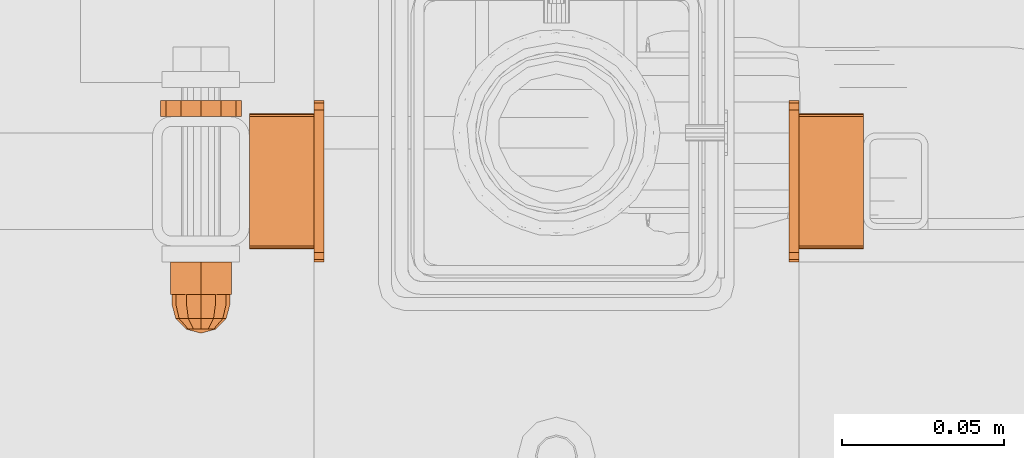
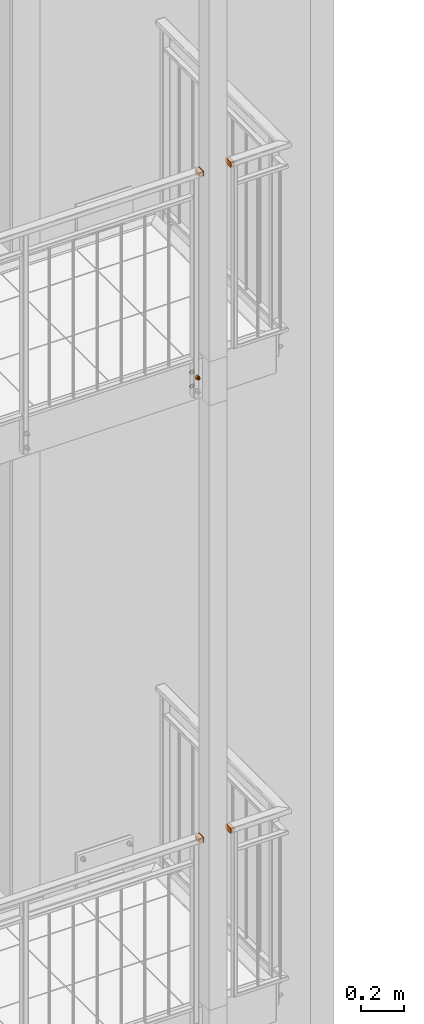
# One storey, part 126 of 162: 7 proxies.
"""IFC2X3 building model written with IfcOpenShell, lengths in millimetres."""

from ifc_helpers import new_model, entity, si_unit, converted_unit, origin_with_axes, place, context, project, spatial, faceted_brep, material, element, save


model = new_model("IFC2X3")

# Units and contexts
model_context = context("Model", 3, precision=1e-09, world=origin_with_axes())
ifc_project = project(units=[si_unit("LENGTHUNIT", "METRE", prefix="MILLI"), si_unit("AREAUNIT", "SQUARE_METRE"), si_unit("VOLUMEUNIT", "CUBIC_METRE"), converted_unit("PLANEANGLEUNIT", "DEGREE", entity("IfcPlaneAngleMeasure", 0.01745329), si_unit("PLANEANGLEUNIT", "RADIAN"), dimensions=[0, 0, 0, 0, 0, 0, 0])], contexts=[model_context])

# Site, building, storey
site_placement = place(None, origin_with_axes())
site = spatial("IfcSite", under=ifc_project, at=site_placement, Name="Hermannstra?e 1a, 60318 Frankfurt", CompositionType="ELEMENT")
building_placement = place(site_placement, origin_with_axes())
building = spatial("IfcBuilding", under=site, at=building_placement, Name="Struktur 1", CompositionType="ELEMENT")
storey_placement = place(building_placement, origin_with_axes())
storey = spatial("IfcBuildingStorey", under=building, at=storey_placement, Name="Default Storey", CompositionType="ELEMENT", Elevation=0.0)

# Proxies
ifc_material = material(Name="Kein")
proxy_1_placement = place(None, origin_with_axes())
element("IfcBuildingElementProxy", 1, at=proxy_1_placement, inside=storey, material=ifc_material, ObjectType="-", context=model_context, shape_type="Brep", body=[
    faceted_brep([(5378.30936482, 1494.609373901, 8774.0), (5378.30936482, 1494.609373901, 8756.0), (5398.30936482, 1494.609373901, 8756.0), (5398.30936482, 1494.609373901, 8774.0), (5398.30936482, 1494.877323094, 8775.0), (5378.30936482, 1494.877323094, 8775.0), (5378.30936482, 1495.609373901, 8775.732050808), (5398.30936482, 1495.609373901, 8775.732050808), (5398.30936482, 1496.609373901, 8776.0), (5378.30936482, 1496.609373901, 8776.0), (5378.30936482, 1494.877323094, 8755.0), (5398.30936482, 1494.877323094, 8755.0), (5378.30936482, 1495.609373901, 8754.267949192), (5398.30936482, 1495.609373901, 8754.267949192), (5378.30936482, 1534.609373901, 8776.0), (5378.30936482, 1535.609373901, 8775.732050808), (5378.30936482, 1536.341424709, 8775.0), (5378.30936482, 1536.609373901, 8774.0), (5378.30936482, 1536.609373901, 8756.0), (5378.30936482, 1536.341424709, 8755.0), (5378.30936482, 1535.609373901, 8754.267949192), (5378.30936482, 1534.609373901, 8754.0), (5378.30936482, 1496.609373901, 8754.0), (5378.30936482, 1498.609373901, 8772.0), (5378.30936482, 1498.609373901, 8758.0), (5378.30936482, 1532.609373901, 8758.0), (5378.30936482, 1532.609373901, 8772.0), (5398.30936482, 1496.609373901, 8754.0), (5398.30936482, 1534.609373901, 8754.0), (5398.30936482, 1535.609373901, 8754.267949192), (5398.30936482, 1536.341424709, 8755.0), (5398.30936482, 1536.609373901, 8756.0), (5398.30936482, 1536.609373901, 8774.0), (5398.30936482, 1536.341424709, 8775.0), (5398.30936482, 1535.609373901, 8775.732050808), (5398.30936482, 1534.609373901, 8776.0), (5398.30936482, 1498.609373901, 8772.0), (5398.30936482, 1498.609373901, 8758.0), (5398.30936482, 1532.609373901, 8758.0), (5398.30936482, 1532.609373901, 8772.0)], [[[0, 1, 2, 3]], [[0, 3, 4, 5]], [[6, 7, 8, 9]], [[5, 4, 7, 6]], [[2, 1, 10, 11]], [[11, 10, 12, 13]], [[5, 6, 9, 14, 15, 16, 17, 18, 19, 20, 21, 22, 12, 10, 1, 0], [23, 24, 25, 26]], [[3, 2, 11, 13, 27, 28, 29, 30, 31, 32, 33, 34, 35, 8, 7, 4]], [[34, 15, 14, 35]], [[14, 9, 8, 35]], [[36, 37, 24, 23]], [[15, 34, 33, 16]], [[13, 12, 22, 27]], [[25, 24, 37, 38]], [[22, 21, 28, 27]], [[28, 21, 20, 29]], [[39, 36, 23, 26]], [[16, 33, 32, 17]], [[29, 20, 19, 30]], [[26, 25, 38, 39]], [[18, 17, 32, 31]], [[30, 19, 18, 31]]]),
    faceted_brep([(5398.30936482, 1496.609373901, 8750.0), (5401.30936482, 1496.609373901, 8750.0), (5401.30936482, 1493.609373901, 8750.803847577), (5398.30936482, 1493.609373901, 8750.803847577), (5401.30936482, 1491.413221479, 8753.0), (5398.30936482, 1491.413221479, 8753.0), (5401.30936482, 1534.609373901, 8750.0), (5398.30936482, 1534.609373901, 8750.0), (5398.30936482, 1537.609373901, 8750.803847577), (5401.30936482, 1537.609373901, 8750.803847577), (5398.30936482, 1539.805526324, 8753.0), (5401.30936482, 1539.805526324, 8753.0), (5398.30936482, 1490.609373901, 8756.0), (5398.30936482, 1490.609373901, 8774.0), (5398.30936482, 1491.413221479, 8777.0), (5398.30936482, 1493.609373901, 8779.196152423), (5398.30936482, 1496.609373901, 8780.0), (5398.30936482, 1534.609373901, 8780.0), (5398.30936482, 1537.609373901, 8779.196152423), (5398.30936482, 1539.805526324, 8777.0), (5398.30936482, 1540.609373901, 8774.0), (5398.30936482, 1540.609373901, 8756.0), (5401.30936482, 1540.609373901, 8756.0), (5401.30936482, 1540.609373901, 8774.0), (5401.30936482, 1539.805526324, 8777.0), (5401.30936482, 1537.609373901, 8779.196152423), (5401.30936482, 1534.609373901, 8780.0), (5401.30936482, 1496.609373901, 8780.0), (5401.30936482, 1493.609373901, 8779.196152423), (5401.30936482, 1491.413221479, 8777.0), (5401.30936482, 1490.609373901, 8774.0), (5401.30936482, 1490.609373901, 8756.0)], [[[0, 1, 2, 3]], [[3, 2, 4, 5]], [[6, 7, 8, 9]], [[9, 8, 10, 11]], [[5, 12, 13, 14, 15, 16, 17, 18, 19, 20, 21, 10, 8, 7, 0, 3]], [[6, 1, 0, 7]], [[11, 22, 23, 24, 25, 26, 27, 28, 29, 30, 31, 4, 2, 1, 6, 9]], [[5, 4, 31, 12]], [[13, 12, 31, 30]], [[11, 10, 21, 22]], [[28, 15, 14, 29]], [[29, 14, 13, 30]], [[15, 28, 27, 16]], [[23, 22, 21, 20]], [[17, 16, 27, 26]], [[23, 20, 19, 24]], [[25, 18, 17, 26]], [[24, 19, 18, 25]]]),
])
proxy_2_placement = place(None, origin_with_axes())
element("IfcBuildingElementProxy", 2, at=proxy_2_placement, inside=storey, material=ifc_material, ObjectType="-", context=model_context, shape_type="Brep", body=[
    faceted_brep([(5568.30936482, 1494.609373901, 8756.0), (5568.30936482, 1494.609373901, 8774.0), (5548.30936482, 1494.609373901, 8774.0), (5548.30936482, 1494.609373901, 8756.0), (5568.30936482, 1494.877323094, 8775.0), (5548.30936482, 1494.877323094, 8775.0), (5548.30936482, 1495.609373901, 8775.732050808), (5568.30936482, 1495.609373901, 8775.732050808), (5568.30936482, 1496.609373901, 8776.0), (5548.30936482, 1496.609373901, 8776.0), (5548.30936482, 1494.877323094, 8755.0), (5568.30936482, 1494.877323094, 8755.0), (5548.30936482, 1495.609373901, 8754.267949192), (5568.30936482, 1495.609373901, 8754.267949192), (5568.30936482, 1496.609373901, 8754.0), (5568.30936482, 1534.609373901, 8754.0), (5568.30936482, 1535.609373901, 8754.267949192), (5568.30936482, 1536.341424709, 8755.0), (5568.30936482, 1536.609373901, 8756.0), (5568.30936482, 1536.609373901, 8774.0), (5568.30936482, 1536.341424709, 8775.0), (5568.30936482, 1535.609373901, 8775.732050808), (5568.30936482, 1534.609373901, 8776.0), (5568.30936482, 1498.609373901, 8772.0), (5568.30936482, 1532.609373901, 8772.0), (5568.30936482, 1532.609373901, 8758.0), (5568.30936482, 1498.609373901, 8758.0), (5548.30936482, 1534.609373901, 8776.0), (5548.30936482, 1535.609373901, 8775.732050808), (5548.30936482, 1536.341424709, 8775.0), (5548.30936482, 1536.609373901, 8774.0), (5548.30936482, 1536.609373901, 8756.0), (5548.30936482, 1536.341424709, 8755.0), (5548.30936482, 1535.609373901, 8754.267949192), (5548.30936482, 1534.609373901, 8754.0), (5548.30936482, 1496.609373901, 8754.0), (5548.30936482, 1498.609373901, 8772.0), (5548.30936482, 1498.609373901, 8758.0), (5548.30936482, 1532.609373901, 8758.0), (5548.30936482, 1532.609373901, 8772.0)], [[[0, 1, 2, 3]], [[2, 1, 4, 5]], [[6, 7, 8, 9]], [[5, 4, 7, 6]], [[0, 3, 10, 11]], [[11, 10, 12, 13]], [[7, 4, 1, 0, 11, 13, 14, 15, 16, 17, 18, 19, 20, 21, 22, 8], [23, 24, 25, 26]], [[3, 2, 5, 6, 9, 27, 28, 29, 30, 31, 32, 33, 34, 35, 12, 10], [36, 37, 38, 39]], [[21, 28, 27, 22]], [[8, 22, 27, 9]], [[37, 36, 23, 26]], [[28, 21, 20, 29]], [[13, 12, 35, 14]], [[26, 25, 38, 37]], [[15, 14, 35, 34]], [[15, 34, 33, 16]], [[36, 39, 24, 23]], [[29, 20, 19, 30]], [[16, 33, 32, 17]], [[25, 24, 39, 38]], [[19, 18, 31, 30]], [[17, 32, 31, 18]]]),
    faceted_brep([(5545.30936482, 1496.609373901, 8750.0), (5548.30936482, 1496.609373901, 8750.0), (5548.30936482, 1493.609373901, 8750.803847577), (5545.30936482, 1493.609373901, 8750.803847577), (5548.30936482, 1491.413221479, 8753.0), (5545.30936482, 1491.413221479, 8753.0), (5548.30936482, 1534.609373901, 8750.0), (5545.30936482, 1534.609373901, 8750.0), (5545.30936482, 1537.609373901, 8750.803847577), (5548.30936482, 1537.609373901, 8750.803847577), (5545.30936482, 1539.805526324, 8753.0), (5548.30936482, 1539.805526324, 8753.0), (5548.30936482, 1490.609373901, 8756.0), (5548.30936482, 1540.609373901, 8756.0), (5548.30936482, 1540.609373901, 8774.0), (5548.30936482, 1539.805526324, 8777.0), (5548.30936482, 1537.609373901, 8779.196152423), (5548.30936482, 1534.609373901, 8780.0), (5548.30936482, 1496.609373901, 8780.0), (5548.30936482, 1493.609373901, 8779.196152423), (5548.30936482, 1491.413221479, 8777.0), (5548.30936482, 1490.609373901, 8774.0), (5545.30936482, 1540.609373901, 8756.0), (5545.30936482, 1490.609373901, 8756.0), (5545.30936482, 1490.609373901, 8774.0), (5545.30936482, 1491.413221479, 8777.0), (5545.30936482, 1493.609373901, 8779.196152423), (5545.30936482, 1496.609373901, 8780.0), (5545.30936482, 1534.609373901, 8780.0), (5545.30936482, 1537.609373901, 8779.196152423), (5545.30936482, 1539.805526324, 8777.0), (5545.30936482, 1540.609373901, 8774.0)], [[[0, 1, 2, 3]], [[3, 2, 4, 5]], [[6, 7, 8, 9]], [[9, 8, 10, 11]], [[12, 4, 2, 1, 6, 9, 11, 13, 14, 15, 16, 17, 18, 19, 20, 21]], [[0, 7, 6, 1]], [[22, 10, 8, 7, 0, 3, 5, 23, 24, 25, 26, 27, 28, 29, 30, 31]], [[5, 4, 12, 23]], [[12, 21, 24, 23]], [[11, 10, 22, 13]], [[19, 26, 25, 20]], [[20, 25, 24, 21]], [[26, 19, 18, 27]], [[22, 31, 14, 13]], [[18, 17, 28, 27]], [[14, 31, 30, 15]], [[16, 29, 28, 17]], [[15, 30, 29, 16]]]),
])
proxy_3_placement = place(None, origin_with_axes())
element("IfcBuildingElementProxy", 3, at=proxy_3_placement, inside=storey, material=ifc_material, ObjectType="-", context=model_context, shape_type="Brep", body=[
    faceted_brep([(5378.30936482, 1494.609373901, 12573.999), (5378.30936482, 1494.609373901, 12555.999), (5398.30936482, 1494.609373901, 12555.999), (5398.30936482, 1494.609373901, 12573.999), (5398.30936482, 1494.877323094, 12574.999), (5378.30936482, 1494.877323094, 12574.999), (5378.30936482, 1495.609373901, 12575.731050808), (5398.30936482, 1495.609373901, 12575.731050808), (5398.30936482, 1496.609373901, 12575.999), (5378.30936482, 1496.609373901, 12575.999), (5378.30936482, 1494.877323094, 12554.999), (5398.30936482, 1494.877323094, 12554.999), (5378.30936482, 1495.609373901, 12554.266949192), (5398.30936482, 1495.609373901, 12554.266949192), (5378.30936482, 1534.609373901, 12575.999), (5378.30936482, 1535.609373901, 12575.731050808), (5378.30936482, 1536.341424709, 12574.999), (5378.30936482, 1536.609373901, 12573.999), (5378.30936482, 1536.609373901, 12555.999), (5378.30936482, 1536.341424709, 12554.999), (5378.30936482, 1535.609373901, 12554.266949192), (5378.30936482, 1534.609373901, 12553.999), (5378.30936482, 1496.609373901, 12553.999), (5378.30936482, 1498.609373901, 12571.999), (5378.30936482, 1498.609373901, 12557.999), (5378.30936482, 1532.609373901, 12557.999), (5378.30936482, 1532.609373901, 12571.999), (5398.30936482, 1496.609373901, 12553.999), (5398.30936482, 1534.609373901, 12553.999), (5398.30936482, 1535.609373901, 12554.266949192), (5398.30936482, 1536.341424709, 12554.999), (5398.30936482, 1536.609373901, 12555.999), (5398.30936482, 1536.609373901, 12573.999), (5398.30936482, 1536.341424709, 12574.999), (5398.30936482, 1535.609373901, 12575.731050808), (5398.30936482, 1534.609373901, 12575.999), (5398.30936482, 1498.609373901, 12571.999), (5398.30936482, 1498.609373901, 12557.999), (5398.30936482, 1532.609373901, 12557.999), (5398.30936482, 1532.609373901, 12571.999)], [[[0, 1, 2, 3]], [[0, 3, 4, 5]], [[6, 7, 8, 9]], [[5, 4, 7, 6]], [[2, 1, 10, 11]], [[11, 10, 12, 13]], [[5, 6, 9, 14, 15, 16, 17, 18, 19, 20, 21, 22, 12, 10, 1, 0], [23, 24, 25, 26]], [[3, 2, 11, 13, 27, 28, 29, 30, 31, 32, 33, 34, 35, 8, 7, 4]], [[34, 15, 14, 35]], [[14, 9, 8, 35]], [[36, 37, 24, 23]], [[15, 34, 33, 16]], [[13, 12, 22, 27]], [[25, 24, 37, 38]], [[22, 21, 28, 27]], [[28, 21, 20, 29]], [[39, 36, 23, 26]], [[16, 33, 32, 17]], [[29, 20, 19, 30]], [[26, 25, 38, 39]], [[18, 17, 32, 31]], [[30, 19, 18, 31]]]),
    faceted_brep([(5398.30936482, 1496.609373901, 12549.999), (5401.30936482, 1496.609373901, 12549.999), (5401.30936482, 1493.609373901, 12550.802847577), (5398.30936482, 1493.609373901, 12550.802847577), (5401.30936482, 1491.413221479, 12552.999), (5398.30936482, 1491.413221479, 12552.999), (5401.30936482, 1534.609373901, 12549.999), (5398.30936482, 1534.609373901, 12549.999), (5398.30936482, 1537.609373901, 12550.802847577), (5401.30936482, 1537.609373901, 12550.802847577), (5398.30936482, 1539.805526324, 12552.999), (5401.30936482, 1539.805526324, 12552.999), (5398.30936482, 1490.609373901, 12555.999), (5398.30936482, 1490.609373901, 12573.999), (5398.30936482, 1491.413221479, 12576.999), (5398.30936482, 1493.609373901, 12579.195152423), (5398.30936482, 1496.609373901, 12579.999), (5398.30936482, 1534.609373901, 12579.999), (5398.30936482, 1537.609373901, 12579.195152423), (5398.30936482, 1539.805526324, 12576.999), (5398.30936482, 1540.609373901, 12573.999), (5398.30936482, 1540.609373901, 12555.999), (5401.30936482, 1540.609373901, 12555.999), (5401.30936482, 1540.609373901, 12573.999), (5401.30936482, 1539.805526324, 12576.999), (5401.30936482, 1537.609373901, 12579.195152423), (5401.30936482, 1534.609373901, 12579.999), (5401.30936482, 1496.609373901, 12579.999), (5401.30936482, 1493.609373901, 12579.195152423), (5401.30936482, 1491.413221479, 12576.999), (5401.30936482, 1490.609373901, 12573.999), (5401.30936482, 1490.609373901, 12555.999)], [[[0, 1, 2, 3]], [[3, 2, 4, 5]], [[6, 7, 8, 9]], [[9, 8, 10, 11]], [[5, 12, 13, 14, 15, 16, 17, 18, 19, 20, 21, 10, 8, 7, 0, 3]], [[6, 1, 0, 7]], [[11, 22, 23, 24, 25, 26, 27, 28, 29, 30, 31, 4, 2, 1, 6, 9]], [[5, 4, 31, 12]], [[13, 12, 31, 30]], [[11, 10, 21, 22]], [[28, 15, 14, 29]], [[29, 14, 13, 30]], [[15, 28, 27, 16]], [[23, 22, 21, 20]], [[17, 16, 27, 26]], [[23, 20, 19, 24]], [[25, 18, 17, 26]], [[24, 19, 18, 25]]]),
])
proxy_4_placement = place(None, origin_with_axes())
element("IfcBuildingElementProxy", 4, at=proxy_4_placement, inside=storey, material=ifc_material, ObjectType="-", context=model_context, shape_type="Brep", body=[
    faceted_brep([(5568.30936482, 1494.609373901, 12555.999), (5568.30936482, 1494.609373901, 12573.999), (5548.30936482, 1494.609373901, 12573.999), (5548.30936482, 1494.609373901, 12555.999), (5568.30936482, 1494.877323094, 12574.999), (5548.30936482, 1494.877323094, 12574.999), (5548.30936482, 1495.609373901, 12575.731050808), (5568.30936482, 1495.609373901, 12575.731050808), (5568.30936482, 1496.609373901, 12575.999), (5548.30936482, 1496.609373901, 12575.999), (5548.30936482, 1494.877323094, 12554.999), (5568.30936482, 1494.877323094, 12554.999), (5548.30936482, 1495.609373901, 12554.266949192), (5568.30936482, 1495.609373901, 12554.266949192), (5568.30936482, 1496.609373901, 12553.999), (5568.30936482, 1534.609373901, 12553.999), (5568.30936482, 1535.609373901, 12554.266949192), (5568.30936482, 1536.341424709, 12554.999), (5568.30936482, 1536.609373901, 12555.999), (5568.30936482, 1536.609373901, 12573.999), (5568.30936482, 1536.341424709, 12574.999), (5568.30936482, 1535.609373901, 12575.731050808), (5568.30936482, 1534.609373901, 12575.999), (5568.30936482, 1498.609373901, 12571.999), (5568.30936482, 1532.609373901, 12571.999), (5568.30936482, 1532.609373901, 12557.999), (5568.30936482, 1498.609373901, 12557.999), (5548.30936482, 1534.609373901, 12575.999), (5548.30936482, 1535.609373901, 12575.731050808), (5548.30936482, 1536.341424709, 12574.999), (5548.30936482, 1536.609373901, 12573.999), (5548.30936482, 1536.609373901, 12555.999), (5548.30936482, 1536.341424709, 12554.999), (5548.30936482, 1535.609373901, 12554.266949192), (5548.30936482, 1534.609373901, 12553.999), (5548.30936482, 1496.609373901, 12553.999), (5548.30936482, 1498.609373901, 12571.999), (5548.30936482, 1498.609373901, 12557.999), (5548.30936482, 1532.609373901, 12557.999), (5548.30936482, 1532.609373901, 12571.999)], [[[0, 1, 2, 3]], [[2, 1, 4, 5]], [[6, 7, 8, 9]], [[5, 4, 7, 6]], [[0, 3, 10, 11]], [[11, 10, 12, 13]], [[7, 4, 1, 0, 11, 13, 14, 15, 16, 17, 18, 19, 20, 21, 22, 8], [23, 24, 25, 26]], [[3, 2, 5, 6, 9, 27, 28, 29, 30, 31, 32, 33, 34, 35, 12, 10], [36, 37, 38, 39]], [[21, 28, 27, 22]], [[8, 22, 27, 9]], [[37, 36, 23, 26]], [[28, 21, 20, 29]], [[13, 12, 35, 14]], [[26, 25, 38, 37]], [[15, 14, 35, 34]], [[15, 34, 33, 16]], [[36, 39, 24, 23]], [[29, 20, 19, 30]], [[16, 33, 32, 17]], [[25, 24, 39, 38]], [[19, 18, 31, 30]], [[17, 32, 31, 18]]]),
    faceted_brep([(5545.30936482, 1496.609373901, 12549.999), (5548.30936482, 1496.609373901, 12549.999), (5548.30936482, 1493.609373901, 12550.802847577), (5545.30936482, 1493.609373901, 12550.802847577), (5548.30936482, 1491.413221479, 12552.999), (5545.30936482, 1491.413221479, 12552.999), (5548.30936482, 1534.609373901, 12549.999), (5545.30936482, 1534.609373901, 12549.999), (5545.30936482, 1537.609373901, 12550.802847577), (5548.30936482, 1537.609373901, 12550.802847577), (5545.30936482, 1539.805526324, 12552.999), (5548.30936482, 1539.805526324, 12552.999), (5548.30936482, 1490.609373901, 12555.999), (5548.30936482, 1540.609373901, 12555.999), (5548.30936482, 1540.609373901, 12573.999), (5548.30936482, 1539.805526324, 12576.999), (5548.30936482, 1537.609373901, 12579.195152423), (5548.30936482, 1534.609373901, 12579.999), (5548.30936482, 1496.609373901, 12579.999), (5548.30936482, 1493.609373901, 12579.195152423), (5548.30936482, 1491.413221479, 12576.999), (5548.30936482, 1490.609373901, 12573.999), (5545.30936482, 1540.609373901, 12555.999), (5545.30936482, 1490.609373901, 12555.999), (5545.30936482, 1490.609373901, 12573.999), (5545.30936482, 1491.413221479, 12576.999), (5545.30936482, 1493.609373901, 12579.195152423), (5545.30936482, 1496.609373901, 12579.999), (5545.30936482, 1534.609373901, 12579.999), (5545.30936482, 1537.609373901, 12579.195152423), (5545.30936482, 1539.805526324, 12576.999), (5545.30936482, 1540.609373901, 12573.999)], [[[0, 1, 2, 3]], [[3, 2, 4, 5]], [[6, 7, 8, 9]], [[9, 8, 10, 11]], [[12, 4, 2, 1, 6, 9, 11, 13, 14, 15, 16, 17, 18, 19, 20, 21]], [[0, 7, 6, 1]], [[22, 10, 8, 7, 0, 3, 5, 23, 24, 25, 26, 27, 28, 29, 30, 31]], [[5, 4, 12, 23]], [[12, 21, 24, 23]], [[11, 10, 22, 13]], [[19, 26, 25, 20]], [[20, 25, 24, 21]], [[26, 19, 18, 27]], [[22, 31, 14, 13]], [[18, 17, 28, 27]], [[14, 31, 30, 15]], [[16, 29, 28, 17]], [[15, 30, 29, 16]]]),
])
proxy_5_placement = place(None, origin_with_axes())
element("IfcBuildingElementProxy", 5, at=proxy_5_placement, inside=storey, material=ifc_material, ObjectType="-", context=model_context, shape_type="Brep", body=[
    faceted_brep([(5352.484047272, 1535.609373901, 11333.749), (5357.05936482, 1535.609373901, 11329.173682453), (5363.30936482, 1535.609373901, 11327.499), (5369.55936482, 1535.609373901, 11329.173682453), (5374.134682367, 1535.609373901, 11333.749), (5375.80936482, 1535.609373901, 11339.999), (5374.134682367, 1535.609373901, 11346.249), (5369.55936482, 1535.609373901, 11350.824317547), (5363.30936482, 1535.609373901, 11352.499), (5357.05936482, 1535.609373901, 11350.824317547), (5352.484047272, 1535.609373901, 11346.249), (5350.80936482, 1535.609373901, 11339.999), (5363.30936482, 1535.609373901, 11333.999), (5360.30936482, 1535.609373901, 11334.802847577), (5358.113212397, 1535.609373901, 11336.999), (5357.30936482, 1535.609373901, 11339.999), (5358.113212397, 1535.609373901, 11342.999), (5360.30936482, 1535.609373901, 11345.195152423), (5363.30936482, 1535.609373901, 11345.999), (5366.30936482, 1535.609373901, 11345.195152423), (5368.505517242, 1535.609373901, 11342.999), (5369.30936482, 1535.609373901, 11339.999), (5368.505517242, 1535.609373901, 11336.999), (5366.30936482, 1535.609373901, 11334.802847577), (5352.484047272, 1540.609373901, 11333.749), (5357.05936482, 1540.609373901, 11329.173682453), (5350.80936482, 1540.609373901, 11339.999), (5352.484047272, 1540.609373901, 11346.249), (5357.05936482, 1540.609373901, 11350.824317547), (5363.30936482, 1540.609373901, 11352.499), (5369.55936482, 1540.609373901, 11350.824317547), (5374.134682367, 1540.609373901, 11346.249), (5375.80936482, 1540.609373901, 11339.999), (5374.134682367, 1540.609373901, 11333.749), (5369.55936482, 1540.609373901, 11329.173682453), (5363.30936482, 1540.609373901, 11327.499), (5358.113212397, 1540.609373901, 11342.999), (5357.30936482, 1540.609373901, 11339.999), (5358.113212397, 1540.609373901, 11336.999), (5360.30936482, 1540.609373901, 11334.802847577), (5363.30936482, 1540.609373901, 11333.999), (5366.30936482, 1540.609373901, 11334.802847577), (5368.505517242, 1540.609373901, 11336.999), (5369.30936482, 1540.609373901, 11339.999), (5368.505517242, 1540.609373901, 11342.999), (5366.30936482, 1540.609373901, 11345.195152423), (5363.30936482, 1540.609373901, 11345.999), (5360.30936482, 1540.609373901, 11345.195152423)], [[[0, 1, 2, 3, 4, 5, 6, 7, 8, 9, 10, 11], [12, 13, 14, 15, 16, 17, 18, 19, 20, 21, 22, 23]], [[0, 24, 25, 1]], [[24, 26, 27, 28, 29, 30, 31, 32, 33, 34, 35, 25], [36, 37, 38, 39, 40, 41, 42, 43, 44, 45, 46, 47]], [[38, 14, 13, 39]], [[24, 0, 11, 26]], [[14, 38, 37, 15]], [[39, 13, 12, 40]], [[1, 25, 35, 2]], [[26, 11, 10, 27]], [[15, 37, 36, 16]], [[40, 12, 23, 41]], [[2, 35, 34, 3]], [[27, 10, 9, 28]], [[16, 36, 47, 17]], [[22, 42, 41, 23]], [[3, 34, 33, 4]], [[42, 22, 21, 43]], [[28, 9, 8, 29]], [[17, 47, 46, 18]], [[20, 44, 43, 21]], [[4, 33, 32, 5]], [[45, 19, 18, 46]], [[44, 20, 19, 45]], [[29, 8, 7, 30]], [[5, 32, 31, 6]], [[30, 7, 6, 31]]]),
])
proxy_6_placement = place(None, origin_with_axes())
element("IfcBuildingElementProxy", 6, at=proxy_6_placement, inside=storey, material=ifc_material, ObjectType="-", context=model_context, shape_type="Brep", body=[
    faceted_brep([(5352.484047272, 1535.609373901, 11413.749), (5357.05936482, 1535.609373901, 11409.173682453), (5363.30936482, 1535.609373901, 11407.499), (5369.55936482, 1535.609373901, 11409.173682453), (5374.134682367, 1535.609373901, 11413.749), (5375.80936482, 1535.609373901, 11419.999), (5374.134682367, 1535.609373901, 11426.249), (5369.55936482, 1535.609373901, 11430.824317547), (5363.30936482, 1535.609373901, 11432.499), (5357.05936482, 1535.609373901, 11430.824317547), (5352.484047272, 1535.609373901, 11426.249), (5350.80936482, 1535.609373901, 11419.999), (5363.30936482, 1535.609373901, 11413.999), (5360.30936482, 1535.609373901, 11414.802847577), (5358.113212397, 1535.609373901, 11416.999), (5357.30936482, 1535.609373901, 11419.999), (5358.113212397, 1535.609373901, 11422.999), (5360.30936482, 1535.609373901, 11425.195152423), (5363.30936482, 1535.609373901, 11425.999), (5366.30936482, 1535.609373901, 11425.195152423), (5368.505517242, 1535.609373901, 11422.999), (5369.30936482, 1535.609373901, 11419.999), (5368.505517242, 1535.609373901, 11416.999), (5366.30936482, 1535.609373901, 11414.802847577), (5352.484047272, 1540.609373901, 11413.749), (5357.05936482, 1540.609373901, 11409.173682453), (5350.80936482, 1540.609373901, 11419.999), (5352.484047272, 1540.609373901, 11426.249), (5357.05936482, 1540.609373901, 11430.824317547), (5363.30936482, 1540.609373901, 11432.499), (5369.55936482, 1540.609373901, 11430.824317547), (5374.134682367, 1540.609373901, 11426.249), (5375.80936482, 1540.609373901, 11419.999), (5374.134682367, 1540.609373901, 11413.749), (5369.55936482, 1540.609373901, 11409.173682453), (5363.30936482, 1540.609373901, 11407.499), (5358.113212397, 1540.609373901, 11422.999), (5357.30936482, 1540.609373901, 11419.999), (5358.113212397, 1540.609373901, 11416.999), (5360.30936482, 1540.609373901, 11414.802847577), (5363.30936482, 1540.609373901, 11413.999), (5366.30936482, 1540.609373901, 11414.802847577), (5368.505517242, 1540.609373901, 11416.999), (5369.30936482, 1540.609373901, 11419.999), (5368.505517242, 1540.609373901, 11422.999), (5366.30936482, 1540.609373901, 11425.195152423), (5363.30936482, 1540.609373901, 11425.999), (5360.30936482, 1540.609373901, 11425.195152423)], [[[0, 1, 2, 3, 4, 5, 6, 7, 8, 9, 10, 11], [12, 13, 14, 15, 16, 17, 18, 19, 20, 21, 22, 23]], [[0, 24, 25, 1]], [[24, 26, 27, 28, 29, 30, 31, 32, 33, 34, 35, 25], [36, 37, 38, 39, 40, 41, 42, 43, 44, 45, 46, 47]], [[38, 14, 13, 39]], [[24, 0, 11, 26]], [[14, 38, 37, 15]], [[39, 13, 12, 40]], [[1, 25, 35, 2]], [[26, 11, 10, 27]], [[15, 37, 36, 16]], [[40, 12, 23, 41]], [[2, 35, 34, 3]], [[27, 10, 9, 28]], [[16, 36, 47, 17]], [[22, 42, 41, 23]], [[3, 34, 33, 4]], [[42, 22, 21, 43]], [[28, 9, 8, 29]], [[17, 47, 46, 18]], [[20, 44, 43, 21]], [[4, 33, 32, 5]], [[45, 19, 18, 46]], [[44, 20, 19, 45]], [[29, 8, 7, 30]], [[5, 32, 31, 6]], [[30, 7, 6, 31]]]),
])
proxy_7_placement = place(None, origin_with_axes())
element("IfcBuildingElementProxy", 7, at=proxy_7_placement, inside=storey, material=ifc_material, ObjectType="-", context=model_context, shape_type="Brep", body=[
    faceted_brep([(5357.30936482, 1490.609373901, 11419.999), (5357.30936482, 1480.609373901, 11419.999), (5358.113212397, 1480.609373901, 11416.999), (5358.113212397, 1490.609373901, 11416.999), (5360.30936482, 1480.609373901, 11414.802847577), (5360.30936482, 1490.609373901, 11414.802847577), (5358.113212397, 1490.609373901, 11422.999), (5358.113212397, 1480.609373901, 11422.999), (5353.829495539, 1490.609373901, 11425.472205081), (5363.30936482, 1490.609373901, 11430.945410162), (5372.7892341, 1490.609373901, 11425.472205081), (5372.7892341, 1490.609373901, 11414.525794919), (5363.30936482, 1490.609373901, 11409.052589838), (5353.829495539, 1490.609373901, 11414.525794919), (5360.30936482, 1490.609373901, 11425.195152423), (5363.30936482, 1490.609373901, 11413.999), (5366.30936482, 1490.609373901, 11414.802847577), (5368.505517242, 1490.609373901, 11416.999), (5369.30936482, 1490.609373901, 11419.999), (5368.505517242, 1490.609373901, 11422.999), (5366.30936482, 1490.609373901, 11425.195152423), (5363.30936482, 1490.609373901, 11425.999), (5363.30936482, 1480.609373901, 11430.945410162), (5353.829495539, 1480.609373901, 11425.472205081), (5353.829495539, 1480.609373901, 11414.525794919), (5363.30936482, 1480.609373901, 11409.052589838), (5372.7892341, 1480.609373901, 11414.525794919), (5372.7892341, 1480.609373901, 11425.472205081), (5360.30936482, 1480.609373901, 11425.195152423), (5363.30936482, 1480.609373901, 11425.999), (5366.30936482, 1480.609373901, 11425.195152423), (5368.505517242, 1480.609373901, 11422.999), (5369.30936482, 1480.609373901, 11419.999), (5368.505517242, 1480.609373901, 11416.999), (5366.30936482, 1480.609373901, 11414.802847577), (5363.30936482, 1480.609373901, 11413.999)], [[[0, 1, 2, 3]], [[3, 2, 4, 5]], [[1, 0, 6, 7]], [[8, 9, 10, 11, 12, 13], [14, 6, 0, 3, 5, 15, 16, 17, 18, 19, 20, 21]], [[22, 23, 24, 25, 26, 27], [1, 7, 28, 29, 30, 31, 32, 33, 34, 35, 4, 2]], [[7, 6, 14, 28]], [[24, 23, 8, 13]], [[5, 4, 35, 15]], [[13, 12, 25, 24]], [[28, 14, 21, 29]], [[23, 22, 9, 8]], [[15, 35, 34, 16]], [[12, 11, 26, 25]], [[29, 21, 20, 30]], [[22, 27, 10, 9]], [[16, 34, 33, 17]], [[27, 26, 11, 10]], [[30, 20, 19, 31]], [[17, 33, 32, 18]], [[31, 19, 18, 32]]]),
    faceted_brep([(5363.30936482, 1480.609373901, 11428.999), (5363.30936482, 1477.609373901, 11428.999), (5367.80936482, 1477.609373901, 11427.793228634), (5367.80936482, 1480.609373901, 11427.793228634), (5358.80936482, 1480.609373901, 11427.793228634), (5358.80936482, 1477.609373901, 11427.793228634), (5355.515136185, 1477.609373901, 11415.499), (5358.80936482, 1477.609373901, 11412.204771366), (5363.30936482, 1477.609373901, 11410.999), (5367.80936482, 1477.609373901, 11412.204771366), (5371.103593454, 1477.609373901, 11415.499), (5372.30936482, 1477.609373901, 11419.999), (5371.103593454, 1477.609373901, 11424.499), (5355.515136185, 1477.609373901, 11424.499), (5354.30936482, 1477.609373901, 11419.999), (5371.103593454, 1480.609373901, 11415.499), (5367.80936482, 1480.609373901, 11412.204771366), (5363.30936482, 1480.609373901, 11410.999), (5358.80936482, 1480.609373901, 11412.204771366), (5355.515136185, 1480.609373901, 11415.499), (5354.30936482, 1480.609373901, 11419.999), (5355.515136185, 1480.609373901, 11424.499), (5371.103593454, 1480.609373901, 11424.499), (5372.30936482, 1480.609373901, 11419.999)], [[[0, 1, 2, 3]], [[1, 0, 4, 5]], [[6, 7, 8, 9, 10, 11, 12, 2, 1, 5, 13, 14]], [[15, 16, 17, 18, 19, 20, 21, 4, 0, 3, 22, 23]], [[3, 2, 12, 22]], [[5, 4, 21, 13]], [[22, 12, 11, 23]], [[13, 21, 20, 14]], [[7, 18, 17, 8]], [[19, 6, 14, 20]], [[18, 7, 6, 19]], [[23, 11, 10, 15]], [[8, 17, 16, 9]], [[15, 10, 9, 16]]]),
    faceted_brep([(5355.515136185, 1477.609373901, 11424.499), (5356.55936482, 1473.109373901, 11423.896114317), (5359.412250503, 1473.109373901, 11426.749), (5358.80936482, 1477.609373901, 11427.793228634), (5371.103593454, 1477.609373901, 11415.499), (5367.80936482, 1477.609373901, 11412.204771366), (5363.30936482, 1477.609373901, 11410.999), (5358.80936482, 1477.609373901, 11412.204771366), (5355.515136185, 1477.609373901, 11415.499), (5354.30936482, 1477.609373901, 11419.999), (5363.30936482, 1477.609373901, 11428.999), (5367.80936482, 1477.609373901, 11427.793228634), (5371.103593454, 1477.609373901, 11424.499), (5372.30936482, 1477.609373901, 11419.999), (5363.30936482, 1473.109373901, 11427.793228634), (5355.515136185, 1473.109373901, 11419.999), (5358.80936482, 1469.815145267, 11419.999), (5359.412250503, 1469.815145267, 11422.249), (5367.206479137, 1473.109373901, 11426.749), (5361.05936482, 1469.815145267, 11423.896114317), (5356.55936482, 1473.109373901, 11416.101885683), (5359.412250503, 1469.815145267, 11417.749), (5363.30936482, 1469.815145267, 11424.499), (5363.30936482, 1468.609373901, 11419.999), (5359.412250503, 1473.109373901, 11413.249), (5361.05936482, 1469.815145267, 11416.101885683), (5363.30936482, 1473.109373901, 11412.204771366), (5370.05936482, 1473.109373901, 11423.896114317), (5365.55936482, 1469.815145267, 11423.896114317), (5363.30936482, 1469.815145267, 11415.499), (5367.206479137, 1473.109373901, 11413.249), (5365.55936482, 1469.815145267, 11416.101885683), (5371.103593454, 1473.109373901, 11419.999), (5367.206479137, 1469.815145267, 11422.249), (5370.05936482, 1473.109373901, 11416.101885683), (5367.206479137, 1469.815145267, 11417.749), (5367.80936482, 1469.815145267, 11419.999)], [[[0, 1, 2, 3]], [[4, 5, 6, 7, 8, 9, 0, 3, 10, 11, 12, 13]], [[3, 2, 14, 10]], [[15, 16, 17, 1]], [[1, 0, 9, 15]], [[10, 14, 18, 11]], [[1, 17, 19, 2]], [[16, 15, 20, 21]], [[2, 19, 22, 14]], [[23, 17, 16]], [[24, 25, 21, 20]], [[23, 16, 21]], [[24, 7, 6, 26]], [[20, 8, 7, 24]], [[15, 9, 8, 20]], [[11, 18, 27, 12]], [[14, 22, 28, 18]], [[23, 19, 17]], [[26, 29, 25, 24]], [[23, 21, 25]], [[23, 22, 19]], [[26, 6, 5, 30]], [[29, 26, 30, 31]], [[23, 25, 29]], [[12, 27, 32, 13]], [[18, 28, 33, 27]], [[23, 28, 22]], [[23, 29, 31]], [[23, 33, 28]], [[30, 5, 4, 34]], [[31, 30, 34, 35]], [[23, 31, 35]], [[13, 32, 34, 4]], [[27, 33, 36, 32]], [[23, 36, 33]], [[23, 35, 36]], [[35, 34, 32, 36]]]),
])

save(model, "model.ifc")
